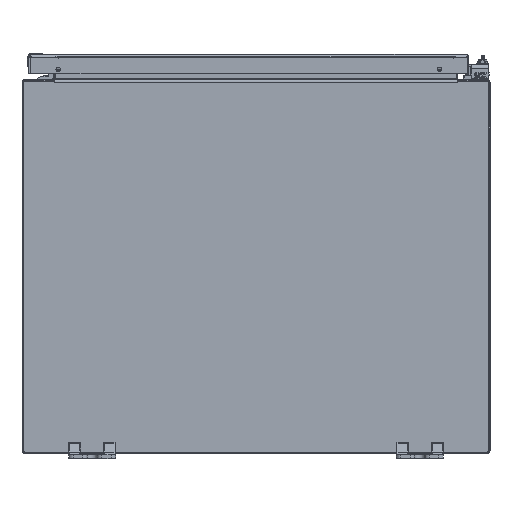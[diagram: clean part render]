
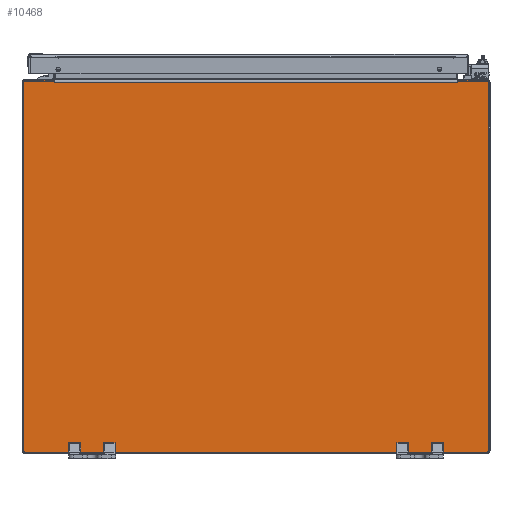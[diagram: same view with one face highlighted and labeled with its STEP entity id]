
A CAD part, front view. The second image highlights one B-rep face of the part: STEP entity #10468.
In plain terms, the highlighted planar face has unit normal (0, -1, 0).
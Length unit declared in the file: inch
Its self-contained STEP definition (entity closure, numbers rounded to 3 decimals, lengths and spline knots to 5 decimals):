
#9571=CARTESIAN_POINT('',(-9.887,0.,7.897));
#9572=DIRECTION('',(0.,-1.,0.));
#9573=DIRECTION('',(0.,0.,1.));
#9574=AXIS2_PLACEMENT_3D('',#9571,#9572,#9573);
#9579=CARTESIAN_POINT('',(9.887,0.,7.897));
#9580=DIRECTION('',(0.,-1.,0.));
#9581=DIRECTION('',(1.,0.,0.));
#9582=AXIS2_PLACEMENT_3D('',#9579,#9580,#9581);
#9587=DIRECTION('',(0.,0.,-1.));
#9588=VECTOR('',#9587,15.764);
#9589=CARTESIAN_POINT('',(9.967,0.,7.897));
#9590=LINE('',#9589,#9588);
#9594=CARTESIAN_POINT('',(9.887,0.,-7.867));
#9595=DIRECTION('',(0.,-1.,0.));
#9596=DIRECTION('',(0.,0.,-1.));
#9597=AXIS2_PLACEMENT_3D('',#9594,#9595,#9596);
#9602=CARTESIAN_POINT('',(-9.887,0.,-7.867));
#9603=DIRECTION('',(0.,-1.,0.));
#9604=DIRECTION('',(-1.,0.,0.));
#9605=AXIS2_PLACEMENT_3D('',#9602,#9603,#9604);
#9610=DIRECTION('',(0.,0.,1.));
#9611=VECTOR('',#9610,15.764);
#9612=CARTESIAN_POINT('',(-9.967,0.,-7.867));
#9613=LINE('',#9612,#9611);
#9638=DIRECTION('',(1.,0.,0.));
#9639=VECTOR('',#9638,19.774);
#9640=CARTESIAN_POINT('',(-9.887,0.,-7.947));
#9641=LINE('',#9640,#9639);
#9680=DIRECTION('',(-1.,0.,0.));
#9681=VECTOR('',#9680,1.262);
#9682=CARTESIAN_POINT('',(9.887,0.,7.977));
#9683=LINE('',#9682,#9681);
#9708=DIRECTION('',(0.,0.,-1.));
#9709=VECTOR('',#9708,0.094);
#9710=CARTESIAN_POINT('',(8.625,0.,7.977));
#9711=LINE('',#9710,#9709);
#9851=DIRECTION('',(1.,0.,0.));
#9852=VECTOR('',#9851,17.25);
#9853=CARTESIAN_POINT('',(-8.625,0.,7.883));
#9854=LINE('',#9853,#9852);
#9895=DIRECTION('',(0.,0.,1.));
#9896=VECTOR('',#9895,0.094);
#9897=CARTESIAN_POINT('',(-8.625,0.,7.883));
#9898=LINE('',#9897,#9896);
#9930=DIRECTION('',(-1.,0.,0.));
#9931=VECTOR('',#9930,1.262);
#9932=CARTESIAN_POINT('',(-8.625,0.,7.977));
#9933=LINE('',#9932,#9931);
#10321=CARTESIAN_POINT('',(-8.625,0.,7.883));
#10322=CARTESIAN_POINT('',(8.625,0.,7.883));
#10323=VERTEX_POINT('',#10321);
#10324=VERTEX_POINT('',#10322);
#10397=CARTESIAN_POINT('',(8.625,0.,7.977));
#10399=VERTEX_POINT('',#10397);
#10401=CARTESIAN_POINT('',(-8.625,0.,7.977));
#10403=VERTEX_POINT('',#10401);
#10405=CARTESIAN_POINT('',(-9.887,0.,7.977));
#10406=CARTESIAN_POINT('',(-9.967,0.,7.897));
#10407=VERTEX_POINT('',#10405);
#10408=VERTEX_POINT('',#10406);
#10413=CARTESIAN_POINT('',(-9.967,0.,-7.867));
#10414=CARTESIAN_POINT('',(-9.887,0.,-7.947));
#10415=VERTEX_POINT('',#10413);
#10416=VERTEX_POINT('',#10414);
#10421=CARTESIAN_POINT('',(9.967,0.,7.897));
#10422=CARTESIAN_POINT('',(9.887,0.,7.977));
#10423=VERTEX_POINT('',#10421);
#10424=VERTEX_POINT('',#10422);
#10429=CARTESIAN_POINT('',(9.887,0.,-7.947));
#10430=CARTESIAN_POINT('',(9.967,0.,-7.867));
#10431=VERTEX_POINT('',#10429);
#10432=VERTEX_POINT('',#10430);
#10437=CARTESIAN_POINT('',(0.,0.,0.));
#10438=DIRECTION('',(0.,-1.,0.));
#10439=DIRECTION('',(-1.,0.,0.));
#10440=AXIS2_PLACEMENT_3D('',#10437,#10438,#10439);
#10441=PLANE('',#10440);
#10443=ORIENTED_EDGE('',*,*,#10442,.F.);
#10445=ORIENTED_EDGE('',*,*,#10444,.F.);
#10447=ORIENTED_EDGE('',*,*,#10446,.F.);
#10449=ORIENTED_EDGE('',*,*,#10448,.T.);
#10451=ORIENTED_EDGE('',*,*,#10450,.F.);
#10453=ORIENTED_EDGE('',*,*,#10452,.F.);
#10455=ORIENTED_EDGE('',*,*,#10454,.F.);
#10457=ORIENTED_EDGE('',*,*,#10456,.T.);
#10459=ORIENTED_EDGE('',*,*,#10458,.F.);
#10461=ORIENTED_EDGE('',*,*,#10460,.F.);
#10463=ORIENTED_EDGE('',*,*,#10462,.F.);
#10465=ORIENTED_EDGE('',*,*,#10464,.T.);
#10466=EDGE_LOOP('',(#10443,#10445,#10447,#10449,#10451,#10453,#10455,#10457,
#10459,#10461,#10463,#10465));
#10467=FACE_OUTER_BOUND('',#10466,.F.);
#9575=CIRCLE('',#9574,0.08);
#9583=CIRCLE('',#9582,0.08);
#9598=CIRCLE('',#9597,0.08);
#9606=CIRCLE('',#9605,0.08);
#10442=EDGE_CURVE('',#10407,#10408,#9575,.T.);
#10444=EDGE_CURVE('',#10403,#10407,#9933,.T.);
#10446=EDGE_CURVE('',#10323,#10403,#9898,.T.);
#10448=EDGE_CURVE('',#10323,#10324,#9854,.T.);
#10450=EDGE_CURVE('',#10399,#10324,#9711,.T.);
#10452=EDGE_CURVE('',#10424,#10399,#9683,.T.);
#10454=EDGE_CURVE('',#10423,#10424,#9583,.T.);
#10456=EDGE_CURVE('',#10423,#10432,#9590,.T.);
#10458=EDGE_CURVE('',#10431,#10432,#9598,.T.);
#10460=EDGE_CURVE('',#10416,#10431,#9641,.T.);
#10462=EDGE_CURVE('',#10415,#10416,#9606,.T.);
#10464=EDGE_CURVE('',#10415,#10408,#9613,.T.);
#10468=ADVANCED_FACE('',(#10467),#10441,.T.);
